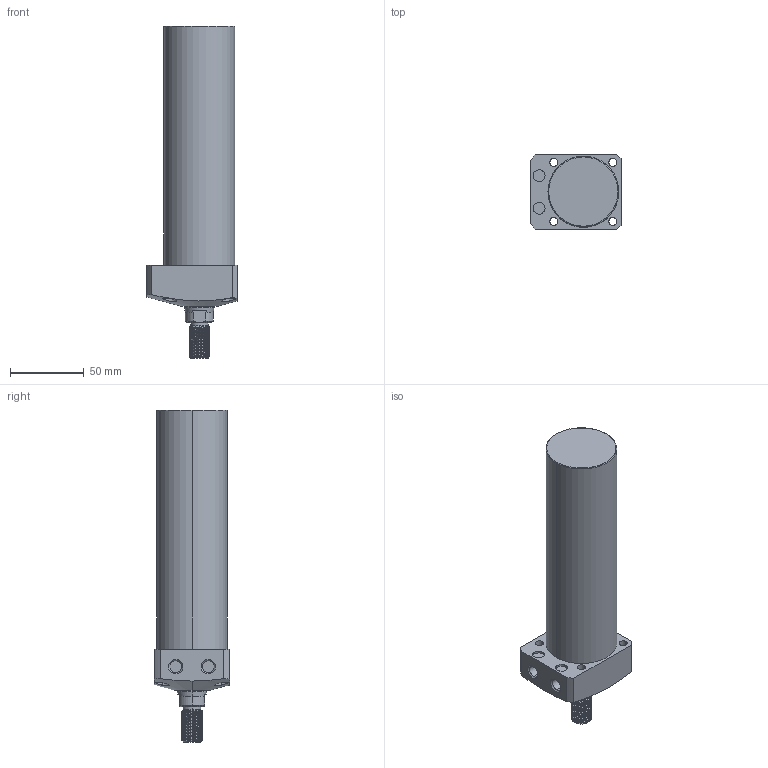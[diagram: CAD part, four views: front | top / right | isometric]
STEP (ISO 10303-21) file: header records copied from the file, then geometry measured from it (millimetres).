
FILE_DESCRIPTION (( 'STEP AP203' ), '1' );
FILE_NAME ('CLL-048CT-135.STEP', '2020-01-08T10:16:38', ( '' ), ( '' ), 'SwSTEP 2.0', 'SolidWorks 2015', '' );
FILE_SCHEMA (( 'CONFIG_CONTROL_DESIGN' ));
Length unit declared in the file: millimetre
Products named in the file (1): CLL-048CT-135
Bounding box: 61 x 51 x 225 mm (x, y, z)
Volume: 372148.2 mm3; surface area: 40483.7 mm2
Topology: 1 solids, 1 shells, 122 faces, 310 edges, 201 vertices
Faces by surface type: cylinder 77, plane 24, cone 17, torus 2, bspline 2
Entity records: 6488 total; most frequent: CARTESIAN_POINT 3687, ORIENTED_EDGE 620, DIRECTION 522, EDGE_CURVE 310, AXIS2_PLACEMENT_3D 206, VERTEX_POINT 201, EDGE_LOOP 141, FACE_OUTER_BOUND 122
